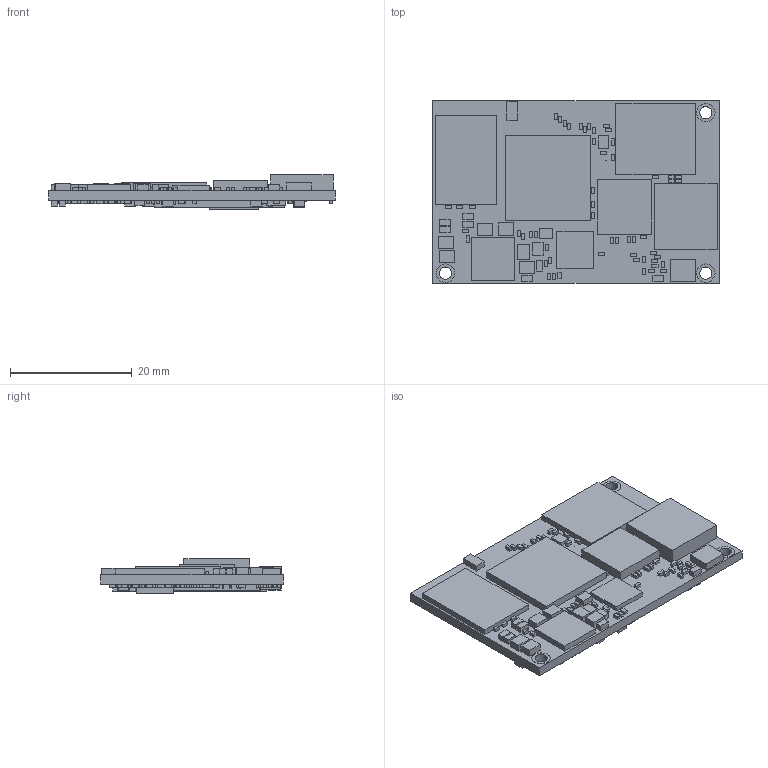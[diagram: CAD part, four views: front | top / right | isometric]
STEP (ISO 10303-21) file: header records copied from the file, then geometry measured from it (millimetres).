
FILE_DESCRIPTION (( 'STEP AP214' ), '1' );
FILE_NAME ('IMX8M-Mini Board Assy.STEP', '2019-11-03T17:36:36', ( '' ), ( '' ), 'SwSTEP 2.0', 'SolidWorks 2017', '' );
FILE_SCHEMA (( 'AUTOMOTIVE_DESIGN' ));
Length unit declared in the file: millimetre
Products named in the file (4): DF40C-70DP; DF40C-80DP; IMX8M-MINI-V1.1; IMX8M-Mini Board Assy
Assembly tree (4 placements, depth 2):
  IMX8M-Mini Board Assy
    IMX8M-MINI-V1.1
    DF40C-80DP  x2
    DF40C-70DP
Bounding box: 47 x 30 x 5.7 mm (x, y, z)
Volume: 3787.8 mm3; surface area: 7227.6 mm2
Topology: 301 solids, 301 shells, 4965 faces, 12984 edges, 8636 vertices
Faces by surface type: plane 3865, cylinder 1052, bspline 36, cone 12
Entity records: 160505 total; most frequent: CARTESIAN_POINT 20751, ORIENTED_EDGE 19492, DIRECTION 18752, EDGE_CURVE 9746, LINE 8278, VECTOR 8278, VERTEX_POINT 6484, AXIS2_PLACEMENT_3D 5237
